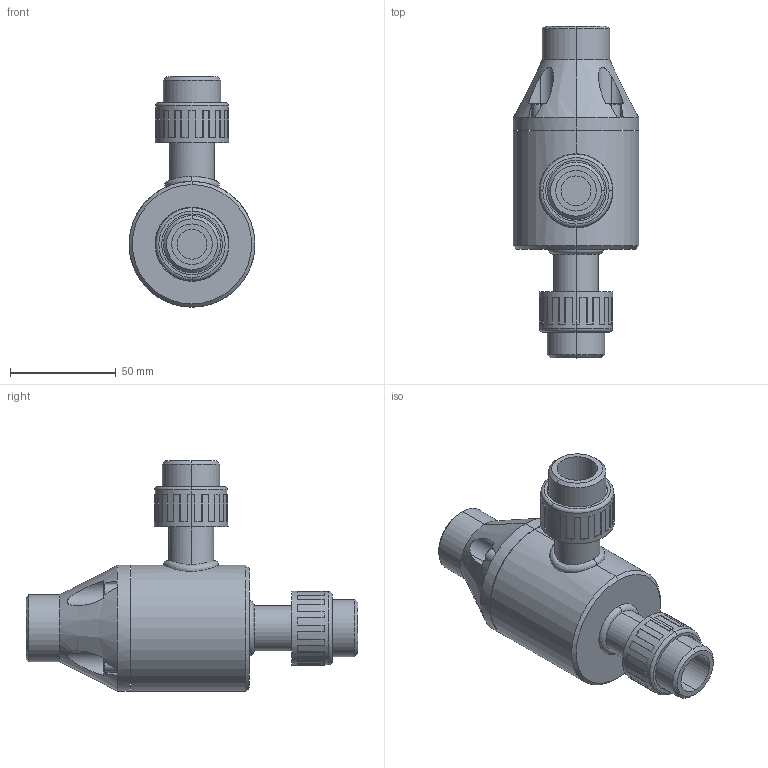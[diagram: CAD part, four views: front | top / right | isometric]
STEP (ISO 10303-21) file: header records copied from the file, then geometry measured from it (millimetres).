
FILE_DESCRIPTION (( 'STEP AP203' ), '1' );
FILE_NAME ('MBP0500_90-UNION.STEP', '2016-09-14T08:29:38', ( '' ), ( '' ), 'SwSTEP 2.0', 'SolidWorks 2014', '' );
FILE_SCHEMA (( 'CONFIG_CONTROL_DESIGN' ));
Length unit declared in the file: inch
Products named in the file (2): MBP0500_90-UNION
Bounding box: 59.44 x 156.84 x 108.84 mm (x, y, z)
Volume: 279100.4 mm3; surface area: 40126 mm2
Topology: 1 solids, 1 shells, 292 faces, 762 edges, 495 vertices
Faces by surface type: plane 208, cylinder 54, cone 22, torus 6, bspline 2
Entity records: 10018 total; most frequent: CARTESIAN_POINT 2478, DIRECTION 1599, ORIENTED_EDGE 1524, EDGE_CURVE 762, AXIS2_PLACEMENT_3D 568, VERTEX_POINT 495, VECTOR 463, LINE 463
